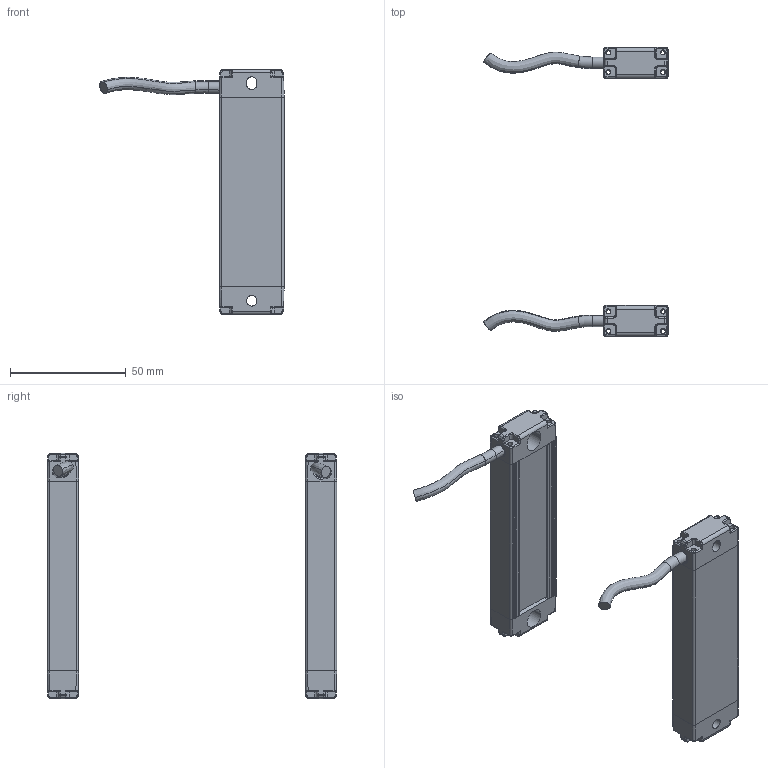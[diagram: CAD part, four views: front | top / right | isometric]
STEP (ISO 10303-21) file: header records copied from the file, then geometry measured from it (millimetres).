
FILE_DESCRIPTION(/* description */ (''),/* implementation_level */ '2;1');
FILE_NAME(/* name */ '0610（13x28w).stp',/* time_stamp */ '2021-01-12T10:42:44+08:00',/* author */ (''),/* organization */ (''),/* preprocessor_version */ 'ST-DEVELOPER v16',/* originating_system */ 'SIEMENS PLM Software NX 10.0',/* authorisation */ '');
FILE_SCHEMA (('AP203_CONFIGURATION_CONTROLLED_3D_DESIGN_OF_MECHANICAL_PARTS_AND_ASSEMBLIES_MIM_LF { 1 0 10303 403 2 1 2}'));
Length unit declared in the file: millimetre
Products named in the file (1): Admi08A40AB2lyks
Bounding box: 79.6 x 125.02 x 106 mm (x, y, z)
Volume: 34605 mm3; surface area: 45020.7 mm2
Topology: 10 solids, 10 shells, 760 faces, 2150 edges, 1419 vertices
Faces by surface type: plane 356, cylinder 312, torus 52, bspline 40
Entity records: 28239 total; most frequent: CARTESIAN_POINT 8703, ORIENTED_EDGE 4300, DIRECTION 3785, EDGE_CURVE 2150, VERTEX_POINT 1419, AXIS2_PLACEMENT_3D 1285, LINE 1215, VECTOR 1215
